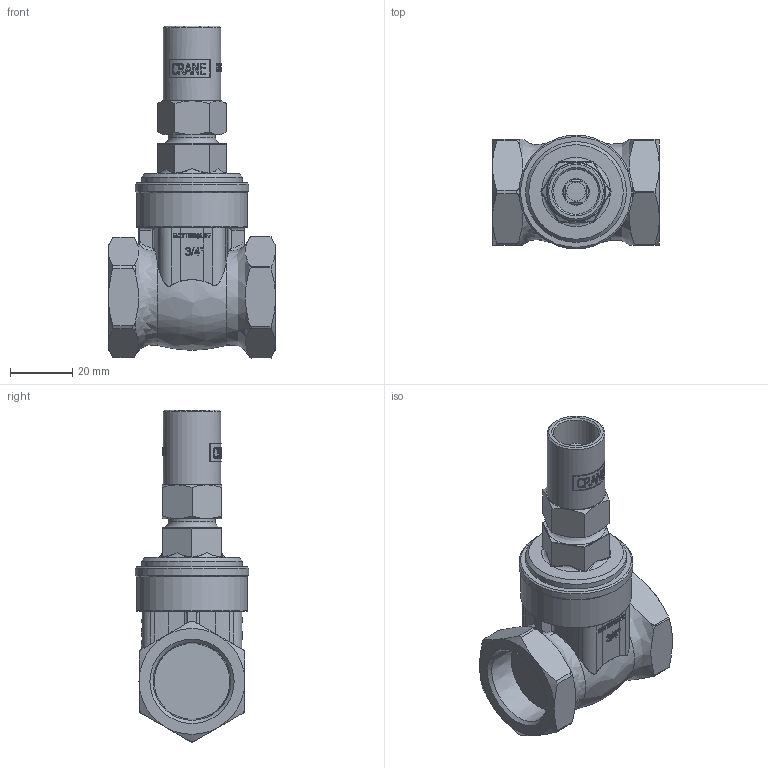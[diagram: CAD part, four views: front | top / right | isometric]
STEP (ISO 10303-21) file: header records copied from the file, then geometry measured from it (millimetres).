
FILE_DESCRIPTION((''),'2;1');
FILE_NAME('P:\Fastrack\53972_CRANE 3D\Gate Valves\Work Space\Lockshield\33XLS_3-4in\33XLS_3-4in.stp','2011-03-11T09:07:14',('btaylor'),(''),'Autodesk Inventor 2008','Autodesk Inventor 2008','');
FILE_SCHEMA(('AUTOMOTIVE_DESIGN { 1 0 10303 214 1 1 1 1 }'));
Length unit declared in the file: millimetre
Products named in the file (1): 33XLS_3-4in
Bounding box: 53.5 x 36.5 x 106.42 mm (x, y, z)
Volume: 71044.7 mm3; surface area: 17783.4 mm2
Topology: 1 solids, 1 shells, 930 faces, 2473 edges, 1589 vertices
Faces by surface type: bspline 382, plane 368, cylinder 133, cone 30, torus 17
Full cylindrical faces by diameter (mm): 6 x1, 7.9 x1, 8.5 x1, 13.37 x1, 14.5 x1, 15 x1, 18.5 x1, 32.3 x1, 35.5 x1, 36.5 x1
Entity records: 113419 total; most frequent: CARTESIAN_POINT 92832, ORIENTED_EDGE 4794, DIRECTION 2786, EDGE_CURVE 2397, VERTEX_POINT 1572, B_SPLINE_CURVE_WITH_KNOTS 1071, EDGE_LOOP 1029, AXIS2_PLACEMENT_3D 957
